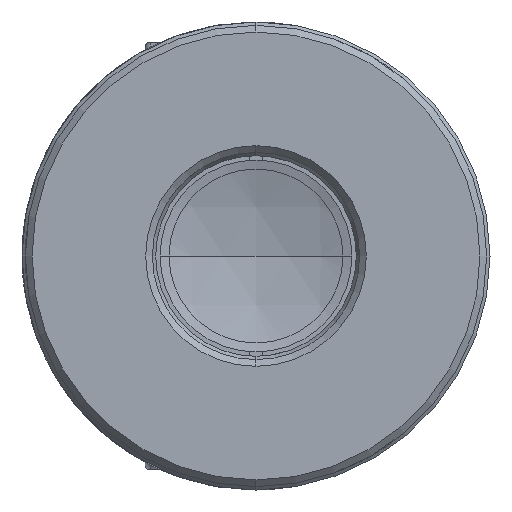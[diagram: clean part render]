
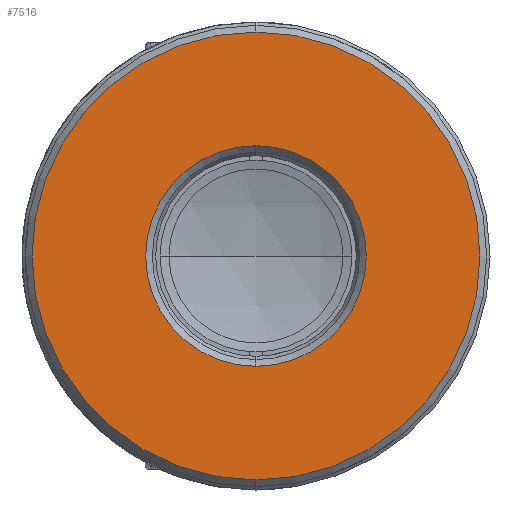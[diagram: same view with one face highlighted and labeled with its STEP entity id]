
A CAD part, left-side view. The second image highlights one B-rep face of the part: STEP entity #7516.
In plain terms, the highlighted planar face has unit normal (-1, 0, 0).
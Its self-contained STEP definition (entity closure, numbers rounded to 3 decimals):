
#467 = AXIS2_PLACEMENT_3D ( 'NONE', #9118, #4835, #578 ) ;
#578 = DIRECTION ( 'NONE',  ( 0., 0., -1. ) ) ;
#595 = DIRECTION ( 'NONE',  ( 0., 0., -1. ) ) ;
#889 = CARTESIAN_POINT ( 'NONE',  ( 0., 0., -16.75 ) ) ;
#1535 = CARTESIAN_POINT ( 'NONE',  ( 0., 0., 8.25 ) ) ;
#1933 = ORIENTED_EDGE ( 'NONE', *, *, #2735, .T. ) ;
#2235 = ORIENTED_EDGE ( 'NONE', *, *, #6166, .T. ) ;
#2735 = EDGE_CURVE ( 'NONE', #5377, #7194, #4853, .T. ) ;
#3410 = EDGE_LOOP ( 'NONE', ( #1933, #2235 ) ) ;
#3432 = DIRECTION ( 'NONE',  ( 1., 0., 0. ) ) ;
#3447 = CARTESIAN_POINT ( 'NONE',  ( 0., 0., 0. ) ) ;
#3792 = ORIENTED_EDGE ( 'NONE', *, *, #6935, .T. ) ;
#4125 = CARTESIAN_POINT ( 'NONE',  ( 0., 7.75, 0. ) ) ;
#4172 = DIRECTION ( 'NONE',  ( 0., 0., -1. ) ) ;
#4418 = CIRCLE ( 'NONE', #7765, 8.25 ) ;
#4556 = AXIS2_PLACEMENT_3D ( 'NONE', #3447, #8457, #4172 ) ;
#4835 = DIRECTION ( 'NONE',  ( -1., 0., 0. ) ) ;
#4849 = DIRECTION ( 'NONE',  ( 0., 0., -1. ) ) ;
#4853 = CIRCLE ( 'NONE', #4556, 16.75 ) ;
#4858 = DIRECTION ( 'NONE',  ( 1., 0., 0. ) ) ;
#5050 = CARTESIAN_POINT ( 'NONE',  ( 0., 0., 16.75 ) ) ;
#5094 = FACE_OUTER_BOUND ( 'NONE', #3410, .T. ) ;
#5175 = CARTESIAN_POINT ( 'NONE',  ( 0., 0., -8.25 ) ) ;
#5377 = VERTEX_POINT ( 'NONE', #889 ) ;
#6166 = EDGE_CURVE ( 'NONE', #7194, #5377, #6838, .T. ) ;
#6247 = AXIS2_PLACEMENT_3D ( 'NONE', #9137, #4858, #595 ) ;
#6255 = PLANE ( 'NONE',  #8246 ) ;
#6323 = VERTEX_POINT ( 'NONE', #1535 ) ;
#6451 = VERTEX_POINT ( 'NONE', #5175 ) ;
#6838 = CIRCLE ( 'NONE', #467, 16.75 ) ;
#6935 = EDGE_CURVE ( 'NONE', #6451, #6323, #8446, .T. ) ;
#6989 = FACE_BOUND ( 'NONE', #7879, .T. ) ;
#7194 = VERTEX_POINT ( 'NONE', #5050 ) ;
#7430 = ORIENTED_EDGE ( 'NONE', *, *, #7530, .T. ) ;
#7516 = ADVANCED_FACE ( 'NONE', ( #6989, #5094 ), #6255, .F. ) ;
#7530 = EDGE_CURVE ( 'NONE', #6323, #6451, #4418, .T. ) ;
#7721 = CARTESIAN_POINT ( 'NONE',  ( 0., 0., 0. ) ) ;
#7765 = AXIS2_PLACEMENT_3D ( 'NONE', #7721, #3432, #8436 ) ;
#7879 = EDGE_LOOP ( 'NONE', ( #7430, #3792 ) ) ;
#8246 = AXIS2_PLACEMENT_3D ( 'NONE', #4125, #9130, #4849 ) ;
#8436 = DIRECTION ( 'NONE',  ( 0., 0., -1. ) ) ;
#8446 = CIRCLE ( 'NONE', #6247, 8.25 ) ;
#8457 = DIRECTION ( 'NONE',  ( -1., 0., 0. ) ) ;
#9118 = CARTESIAN_POINT ( 'NONE',  ( 0., 0., 0. ) ) ;
#9130 = DIRECTION ( 'NONE',  ( 1., 0., 0. ) ) ;
#9137 = CARTESIAN_POINT ( 'NONE',  ( 0., 0., 0. ) ) ;
